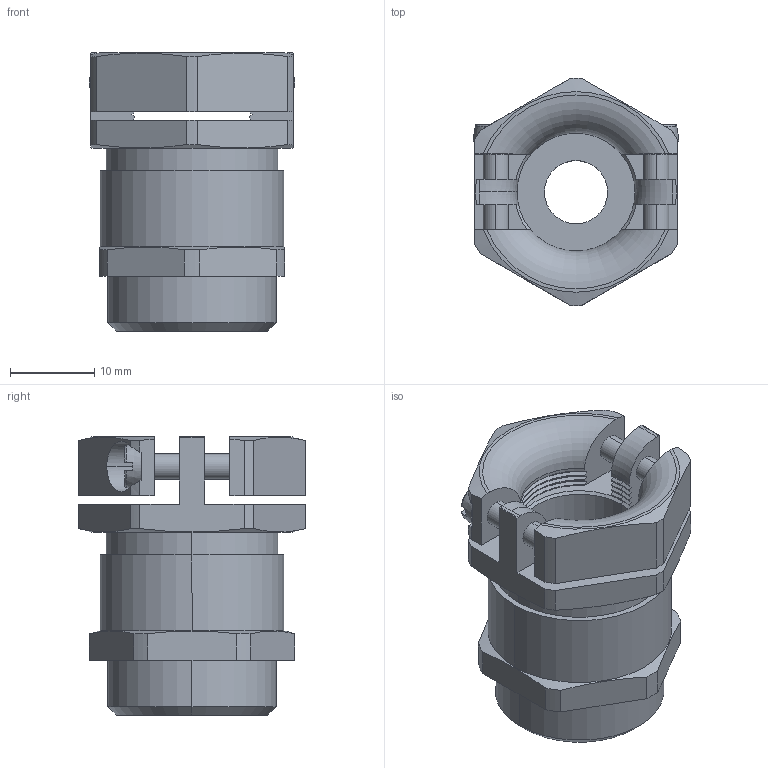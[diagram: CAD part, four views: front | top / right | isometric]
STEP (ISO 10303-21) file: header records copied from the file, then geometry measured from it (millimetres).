
FILE_DESCRIPTION (( 'STEP AP203' ), '1' );
FILE_NAME ('19.513M20.STEP', '2006-08-08T12:55:01', ( ' ' ), ( '' ), 'SwSTEP 2.0', 'SolidWorks 2005278', '' );
FILE_SCHEMA (( 'CONFIG_CONTROL_DESIGN' ));
Length unit declared in the file: millimetre
Products named in the file (1): 19.513M20
Bounding box: 24.38 x 27 x 33 mm (x, y, z)
Volume: 7589.6 mm3; surface area: 5436.6 mm2
Topology: 1 solids, 1 shells, 228 faces, 622 edges, 407 vertices
Faces by surface type: plane 93, cylinder 66, cone 58, torus 11
Entity records: 7765 total; most frequent: CARTESIAN_POINT 1963, ORIENTED_EDGE 1244, DIRECTION 1158, EDGE_CURVE 622, AXIS2_PLACEMENT_3D 433, VERTEX_POINT 407, VECTOR 292, LINE 292
